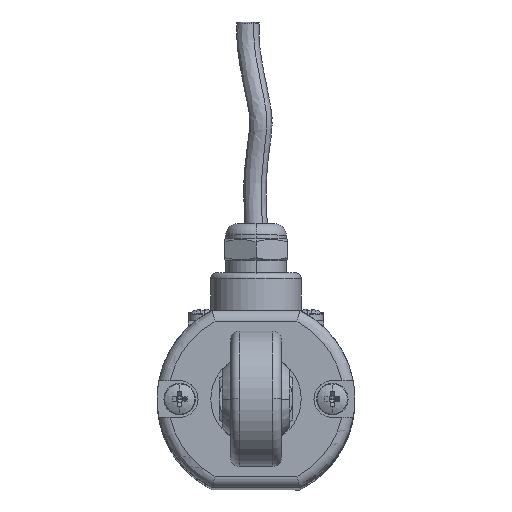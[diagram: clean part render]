
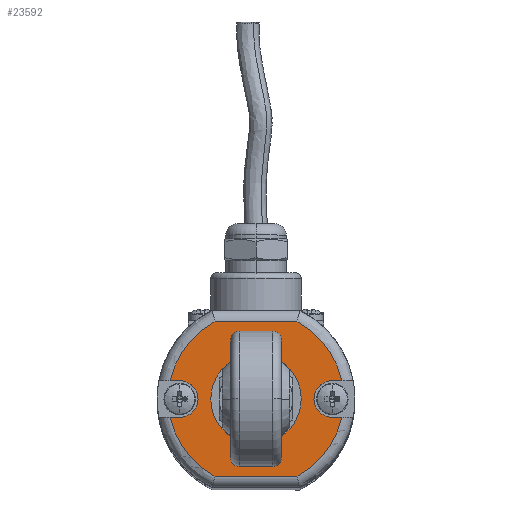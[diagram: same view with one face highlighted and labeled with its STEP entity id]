
A CAD part, top view. The second image highlights one B-rep face of the part: STEP entity #23592.
In plain terms, the highlighted planar face has unit normal (0, 0, 1) as drawn and (0, 0, -1) by its records, which use the part's own axes.
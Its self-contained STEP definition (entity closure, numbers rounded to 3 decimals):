
#522 = CARTESIAN_POINT ( 'NONE',  ( 0., 0., 0. ) ) ;
#746 = LINE ( 'NONE', #22204, #12718 ) ;
#1090 = EDGE_CURVE ( 'NONE', #27022, #2819, #25572, .T. ) ;
#1175 = AXIS2_PLACEMENT_3D ( 'NONE', #17421, #3094, #19835 ) ;
#1201 = CIRCLE ( 'NONE', #1175, 3.25 ) ;
#1596 = DIRECTION ( 'NONE',  ( -1., 0., 0. ) ) ;
#1610 = CIRCLE ( 'NONE', #11221, 15.5 ) ;
#2053 = CARTESIAN_POINT ( 'NONE',  ( 0., 0., 0. ) ) ;
#2380 = ORIENTED_EDGE ( 'NONE', *, *, #16451, .T. ) ;
#2401 = VECTOR ( 'NONE', #19984, 1000. ) ;
#2438 = EDGE_CURVE ( 'NONE', #20211, #28231, #1610, .T. ) ;
#2488 = CARTESIAN_POINT ( 'NONE',  ( -7.25, 13.7, 0. ) ) ;
#2512 = FACE_BOUND ( 'NONE', #25914, .T. ) ;
#2819 = VERTEX_POINT ( 'NONE', #6889 ) ;
#2938 = DIRECTION ( 'NONE',  ( 1., 0., 0. ) ) ;
#3094 = DIRECTION ( 'NONE',  ( 0., 0., -1. ) ) ;
#3220 = LINE ( 'NONE', #23697, #27855 ) ;
#3301 = ORIENTED_EDGE ( 'NONE', *, *, #6133, .T. ) ;
#3376 = DIRECTION ( 'NONE',  ( 0., 0., -1. ) ) ;
#3631 = DIRECTION ( 'NONE',  ( -1., 0., 0. ) ) ;
#4487 = DIRECTION ( 'NONE',  ( 1., 0., 0. ) ) ;
#4544 = CARTESIAN_POINT ( 'NONE',  ( 0., 0., 0. ) ) ;
#5049 = EDGE_CURVE ( 'NONE', #25577, #12715, #746, .T. ) ;
#5996 = CARTESIAN_POINT ( 'NONE',  ( 7.25, -13.7, 0. ) ) ;
#6133 = EDGE_CURVE ( 'NONE', #12715, #14927, #24607, .T. ) ;
#6141 = CARTESIAN_POINT ( 'NONE',  ( -13.5, 3.25, 0. ) ) ;
#6561 = CARTESIAN_POINT ( 'NONE',  ( 7.25, 13.7, 0. ) ) ;
#6889 = CARTESIAN_POINT ( 'NONE',  ( 10.25, 0., 0. ) ) ;
#6927 = DIRECTION ( 'NONE',  ( 1., 0., 0. ) ) ;
#7255 = LINE ( 'NONE', #7992, #19235 ) ;
#7576 = EDGE_CURVE ( 'NONE', #10839, #27022, #7255, .T. ) ;
#7716 = AXIS2_PLACEMENT_3D ( 'NONE', #17709, #3376, #20118 ) ;
#7992 = CARTESIAN_POINT ( 'NONE',  ( 19.369, -3.25, 0. ) ) ;
#8330 = EDGE_CURVE ( 'NONE', #25264, #15792, #1201, .T. ) ;
#8541 = DIRECTION ( 'NONE',  ( 0., 0., -1. ) ) ;
#8552 = DIRECTION ( 'NONE',  ( 0., 0., -1. ) ) ;
#8687 = LINE ( 'NONE', #17958, #27732 ) ;
#8748 = LINE ( 'NONE', #29436, #2401 ) ;
#9048 = EDGE_CURVE ( 'NONE', #19306, #22248, #18032, .T. ) ;
#9855 = DIRECTION ( 'NONE',  ( 1., 0., 0. ) ) ;
#10381 = ORIENTED_EDGE ( 'NONE', *, *, #2438, .T. ) ;
#10560 = CARTESIAN_POINT ( 'NONE',  ( 15.155, -3.25, 0. ) ) ;
#10742 = ORIENTED_EDGE ( 'NONE', *, *, #17688, .F. ) ;
#10839 = VERTEX_POINT ( 'NONE', #10560 ) ;
#10993 = CARTESIAN_POINT ( 'NONE',  ( -15.155, -3.25, 0. ) ) ;
#11221 = AXIS2_PLACEMENT_3D ( 'NONE', #4544, #21275, #6927 ) ;
#11522 = ORIENTED_EDGE ( 'NONE', *, *, #17607, .F. ) ;
#11539 = EDGE_CURVE ( 'NONE', #2819, #27470, #23818, .T. ) ;
#11909 = DIRECTION ( 'NONE',  ( 0., 0., -1. ) ) ;
#12012 = EDGE_CURVE ( 'NONE', #10839, #28140, #25263, .T. ) ;
#12126 = ORIENTED_EDGE ( 'NONE', *, *, #26809, .T. ) ;
#12336 = ORIENTED_EDGE ( 'NONE', *, *, #7576, .F. ) ;
#12357 = AXIS2_PLACEMENT_3D ( 'NONE', #2053, #18809, #4487 ) ;
#12679 = ORIENTED_EDGE ( 'NONE', *, *, #29260, .F. ) ;
#12681 = ORIENTED_EDGE ( 'NONE', *, *, #1090, .F. ) ;
#12715 = VERTEX_POINT ( 'NONE', #6561 ) ;
#12718 = VECTOR ( 'NONE', #26957, 1000. ) ;
#13194 = AXIS2_PLACEMENT_3D ( 'NONE', #522, #17279, #2938 ) ;
#14927 = VERTEX_POINT ( 'NONE', #29477 ) ;
#15315 = AXIS2_PLACEMENT_3D ( 'NONE', #22851, #8541, #25222 ) ;
#15364 = DIRECTION ( 'NONE',  ( 1., 0., 0. ) ) ;
#15792 = VERTEX_POINT ( 'NONE', #19150 ) ;
#15950 = DIRECTION ( 'NONE',  ( 0., 0., -1. ) ) ;
#15970 = FACE_OUTER_BOUND ( 'NONE', #22798, .T. ) ;
#16451 = EDGE_CURVE ( 'NONE', #28140, #20211, #3220, .T. ) ;
#16670 = CIRCLE ( 'NONE', #21869, 6.5 ) ;
#16841 = DIRECTION ( 'NONE',  ( -1., 0., 0. ) ) ;
#16913 = ORIENTED_EDGE ( 'NONE', *, *, #11539, .F. ) ;
#17279 = DIRECTION ( 'NONE',  ( 0., 0., -1. ) ) ;
#17421 = CARTESIAN_POINT ( 'NONE',  ( -13.5, 0., 0. ) ) ;
#17585 = VERTEX_POINT ( 'NONE', #27143 ) ;
#17607 = EDGE_CURVE ( 'NONE', #17585, #25264, #30824, .T. ) ;
#17688 = EDGE_CURVE ( 'NONE', #22248, #19306, #16670, .T. ) ;
#17709 = CARTESIAN_POINT ( 'NONE',  ( 0., 0., 0. ) ) ;
#17958 = CARTESIAN_POINT ( 'NONE',  ( -19.369, -3.25, 0. ) ) ;
#18032 = CIRCLE ( 'NONE', #22452, 6.5 ) ;
#18152 = VECTOR ( 'NONE', #15364, 1000. ) ;
#18809 = DIRECTION ( 'NONE',  ( 0., 0., -1. ) ) ;
#19150 = CARTESIAN_POINT ( 'NONE',  ( -13.5, -3.25, 0. ) ) ;
#19235 = VECTOR ( 'NONE', #20975, 1000. ) ;
#19306 = VERTEX_POINT ( 'NONE', #29264 ) ;
#19835 = DIRECTION ( 'NONE',  ( 1., 0., 0. ) ) ;
#19984 = DIRECTION ( 'NONE',  ( 1., 0., 0. ) ) ;
#20118 = DIRECTION ( 'NONE',  ( 1., 0., 0. ) ) ;
#20211 = VERTEX_POINT ( 'NONE', #25691 ) ;
#20975 = DIRECTION ( 'NONE',  ( -1., 0., 0. ) ) ;
#21275 = DIRECTION ( 'NONE',  ( 0., 0., -1. ) ) ;
#21598 = ORIENTED_EDGE ( 'NONE', *, *, #5049, .T. ) ;
#21810 = PLANE ( 'NONE',  #30506 ) ;
#21869 = AXIS2_PLACEMENT_3D ( 'NONE', #22862, #8552, #25237 ) ;
#22204 = CARTESIAN_POINT ( 'NONE',  ( 0., 13.7, 0. ) ) ;
#22248 = VERTEX_POINT ( 'NONE', #30342 ) ;
#22376 = ORIENTED_EDGE ( 'NONE', *, *, #8330, .F. ) ;
#22452 = AXIS2_PLACEMENT_3D ( 'NONE', #26203, #11909, #28586 ) ;
#22798 = EDGE_LOOP ( 'NONE', ( #10381, #22826, #22376, #11522, #12126, #21598, #3301, #12679, #16913, #12681, #12336, #27824, #2380 ) ) ;
#22826 = ORIENTED_EDGE ( 'NONE', *, *, #27519, .F. ) ;
#22851 = CARTESIAN_POINT ( 'NONE',  ( 13.5, 0., 0. ) ) ;
#22862 = CARTESIAN_POINT ( 'NONE',  ( 0., 0., 0. ) ) ;
#23084 = CARTESIAN_POINT ( 'NONE',  ( 13.5, -3.25, 0. ) ) ;
#23592 = ADVANCED_FACE ( 'NONE', ( #15970, #2512 ), #21810, .F. ) ;
#23697 = CARTESIAN_POINT ( 'NONE',  ( 0., -13.7, 0. ) ) ;
#23818 = CIRCLE ( 'NONE', #15315, 3.25 ) ;
#24007 = CIRCLE ( 'NONE', #13194, 15.5 ) ;
#24179 = DIRECTION ( 'NONE',  ( 0., 0., 1. ) ) ;
#24607 = CIRCLE ( 'NONE', #12357, 15.5 ) ;
#25222 = DIRECTION ( 'NONE',  ( -1., 0., 0. ) ) ;
#25237 = DIRECTION ( 'NONE',  ( -1., 0., 0. ) ) ;
#25263 = CIRCLE ( 'NONE', #7716, 15.5 ) ;
#25264 = VERTEX_POINT ( 'NONE', #6141 ) ;
#25572 = CIRCLE ( 'NONE', #30758, 3.25 ) ;
#25577 = VERTEX_POINT ( 'NONE', #2488 ) ;
#25691 = CARTESIAN_POINT ( 'NONE',  ( -7.25, -13.7, 0. ) ) ;
#25914 = EDGE_LOOP ( 'NONE', ( #10742, #29515 ) ) ;
#26203 = CARTESIAN_POINT ( 'NONE',  ( 0., 0., 0. ) ) ;
#26809 = EDGE_CURVE ( 'NONE', #17585, #25577, #24007, .T. ) ;
#26957 = DIRECTION ( 'NONE',  ( 1., 0., 0. ) ) ;
#27022 = VERTEX_POINT ( 'NONE', #23084 ) ;
#27143 = CARTESIAN_POINT ( 'NONE',  ( -15.155, 3.25, 0. ) ) ;
#27241 = CARTESIAN_POINT ( 'NONE',  ( -13.5, 3.25, 0. ) ) ;
#27470 = VERTEX_POINT ( 'NONE', #29612 ) ;
#27519 = EDGE_CURVE ( 'NONE', #15792, #28231, #8687, .T. ) ;
#27732 = VECTOR ( 'NONE', #3631, 1000. ) ;
#27824 = ORIENTED_EDGE ( 'NONE', *, *, #12012, .T. ) ;
#27855 = VECTOR ( 'NONE', #16841, 1000. ) ;
#28140 = VERTEX_POINT ( 'NONE', #5996 ) ;
#28231 = VERTEX_POINT ( 'NONE', #10993 ) ;
#28586 = DIRECTION ( 'NONE',  ( -1., 0., 0. ) ) ;
#28845 = CARTESIAN_POINT ( 'NONE',  ( 0., 0., 0. ) ) ;
#29260 = EDGE_CURVE ( 'NONE', #27470, #14927, #8748, .T. ) ;
#29264 = CARTESIAN_POINT ( 'NONE',  ( 6.5, 0., 0. ) ) ;
#29436 = CARTESIAN_POINT ( 'NONE',  ( 13.5, 3.25, 0. ) ) ;
#29477 = CARTESIAN_POINT ( 'NONE',  ( 15.155, 3.25, 0. ) ) ;
#29515 = ORIENTED_EDGE ( 'NONE', *, *, #9048, .F. ) ;
#29612 = CARTESIAN_POINT ( 'NONE',  ( 13.5, 3.25, 0. ) ) ;
#30215 = CARTESIAN_POINT ( 'NONE',  ( 13.5, 0., 0. ) ) ;
#30342 = CARTESIAN_POINT ( 'NONE',  ( -6.5, 0., 0. ) ) ;
#30506 = AXIS2_PLACEMENT_3D ( 'NONE', #28845, #24179, #9855 ) ;
#30758 = AXIS2_PLACEMENT_3D ( 'NONE', #30215, #15950, #1596 ) ;
#30824 = LINE ( 'NONE', #27241, #18152 ) ;
